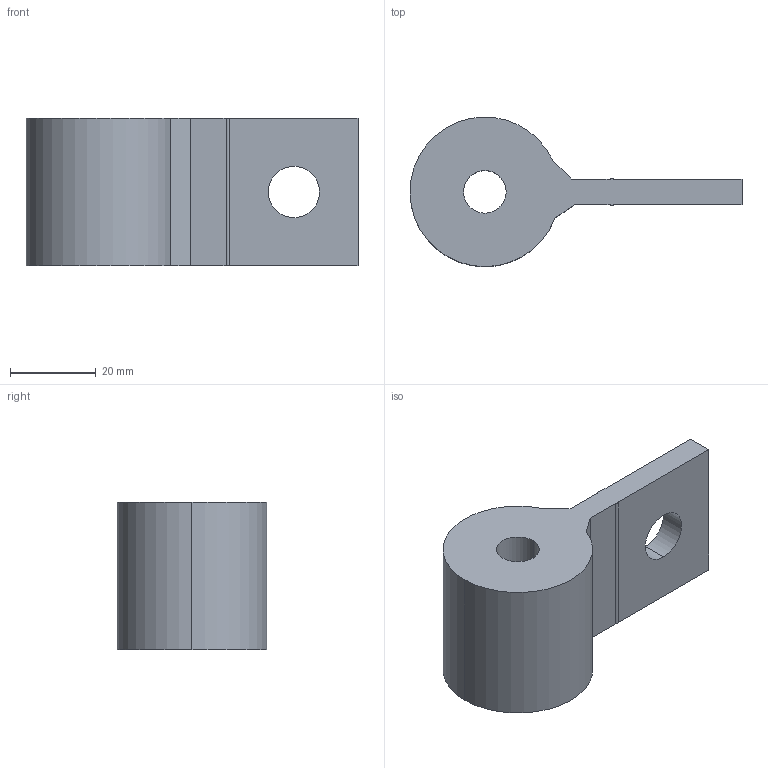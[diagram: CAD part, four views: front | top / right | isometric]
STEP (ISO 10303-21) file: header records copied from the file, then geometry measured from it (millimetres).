
FILE_DESCRIPTION (( 'STEP AP203' ), '1' );
FILE_NAME ('mount-hinge.step', '2009-04-22T20:38:08', ( 'USER' ), ( '' ), 'SwSTEP 2.0', 'SolidWorks 2005204', '' );
FILE_SCHEMA (( 'CONFIG_CONTROL_DESIGN' ));
Length unit declared in the file: millimetre
Products named in the file (1): mount-hinge
Bounding box: 77.64 x 34.98 x 34.5 mm (x, y, z)
Volume: 39065.5 mm3; surface area: 10048.8 mm2
Topology: 1 solids, 1 shells, 17 faces, 45 edges, 30 vertices
Faces by surface type: plane 9, cylinder 8
Entity records: 620 total; most frequent: DIRECTION 97, CARTESIAN_POINT 93, ORIENTED_EDGE 90, EDGE_CURVE 45, AXIS2_PLACEMENT_3D 34, VERTEX_POINT 30, VECTOR 29, LINE 29
